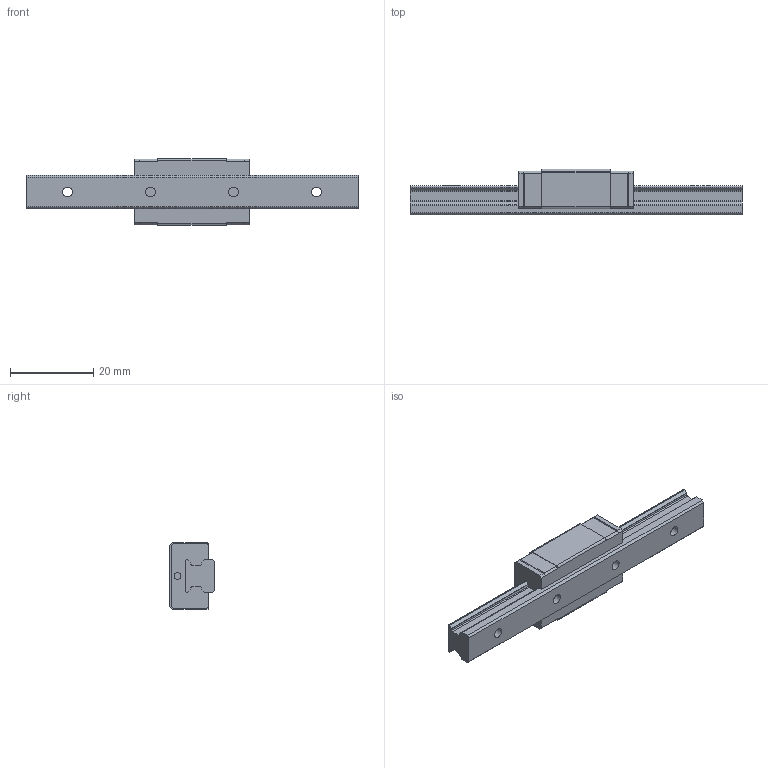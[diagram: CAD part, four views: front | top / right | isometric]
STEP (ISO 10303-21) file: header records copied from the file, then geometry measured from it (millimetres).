
FILE_DESCRIPTION(/* description */ ('STEP AP203'),/* implementation_level */ '2;1');
FILE_NAME(/* name */ 'HRG8RM1UU-80LHM_G10_0_Without_grease_nipple_26-15_0_0_01',/* time_stamp */ '2024-05-23T11:22:56+02:00',/* author */ ('License CC BY-ND 4.0'),/* organization */ ('CADENAS'),/* preprocessor_version */ 'ST-DEVELOPER v19.3',/* originating_system */ 'PARTsolutions',/* authorisation */ ' ');
FILE_SCHEMA (('CONFIG_CONTROL_DESIGN'));
Length unit declared in the file: millimetre
Products named in the file (4): HRG8RM1UU-80LHM_G10_0_Without_grease_nipple_26-15_0_0_01; HRG8RM18010 Rail; HRG8RMUU 1Slider; HSR-YR-_grease_nipple_joint
Assembly tree (3 placements, depth 2):
  HRG8RM1UU-80LHM_G10_0_Without_grease_nipple_26-15_0_0_01
    HRG8RM18010 Rail
    HRG8RMUU 1Slider
    HSR-YR-_grease_nipple_joint
Bounding box: 80 x 11 x 16 mm (x, y, z)
Volume: 6639.7 mm3; surface area: 4973.1 mm2
Topology: 2 solids, 2 shells, 142 faces, 390 edges, 259 vertices
Faces by surface type: plane 87, cylinder 47, cone 8
Full cylindrical faces by diameter (mm): 1.567 x4, 1.6 x2, 2.4 x4, 4.2 x4
Entity records: 4454 total; most frequent: CARTESIAN_POINT 761, DIRECTION 752, ORIENTED_EDGE 720, EDGE_CURVE 360, LINE 260, VECTOR 260, VERTEX_POINT 254, AXIS2_PLACEMENT_3D 246
